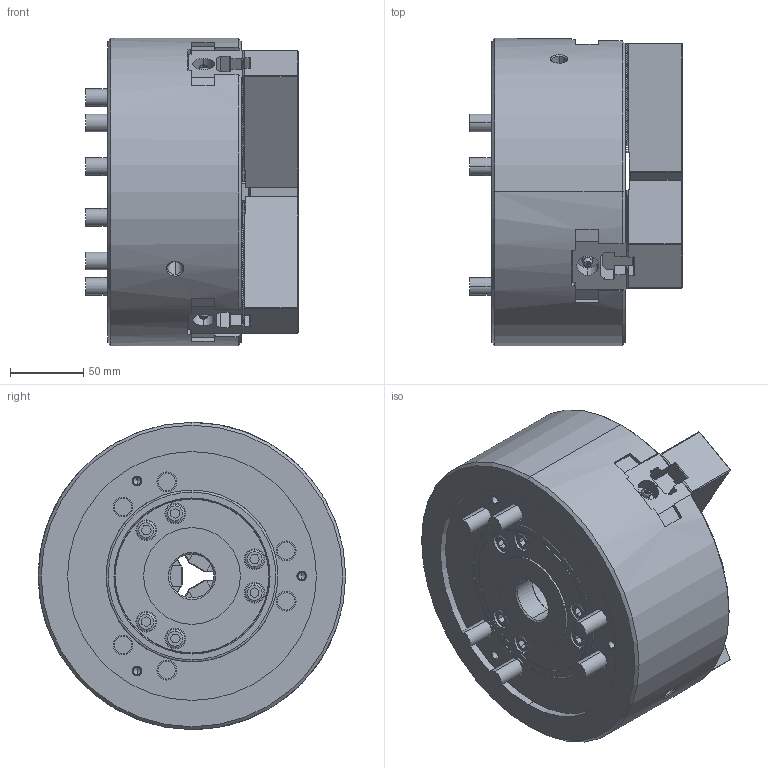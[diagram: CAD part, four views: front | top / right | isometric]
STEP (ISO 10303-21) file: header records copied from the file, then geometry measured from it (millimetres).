
FILE_DESCRIPTION (( 'STEP AP214' ), '1' );
FILE_NAME ('B-208_61P214654-6_OC.STEP', '2020-10-12T05:34:17', ( '' ), ( '' ), 'SwSTEP 2.0', 'SolidWorks 2017', '' );
FILE_SCHEMA (( 'AUTOMOTIVE_DESIGN' ));
Length unit declared in the file: millimetre
Products named in the file (5): B-208_BASE^B-208 クミタテ; Bアナツキ M12×30; 61P304291-3_ソフトジョー; 61P417260-1_俿僫僢僩; B-208_61P214654-6_OC
Assembly tree (13 placements, depth 2):
  B-208_61P214654-6_OC
    61P417260-1_俿僫僢僩  x3
    61P304291-3_ソフトジョー  x3
    Bアナツキ M12×30  x6
    B-208_BASE^B-208 クミタテ
Bounding box: 145 x 210 x 210 mm (x, y, z)
Volume: 368563.8 mm3; surface area: 342276.1 mm2
Topology: 12 solids, 13 shells, 3427 faces, 9589 edges, 6295 vertices
Faces by surface type: plane 2573, cylinder 526, bspline 176, cone 152
Entity records: 91674 total; most frequent: CARTESIAN_POINT 23557, ORIENTED_EDGE 14349, DIRECTION 11570, EDGE_CURVE 7176, VECTOR 5510, LINE 5510, VERTEX_POINT 4725, AXIS2_PLACEMENT_3D 3030
